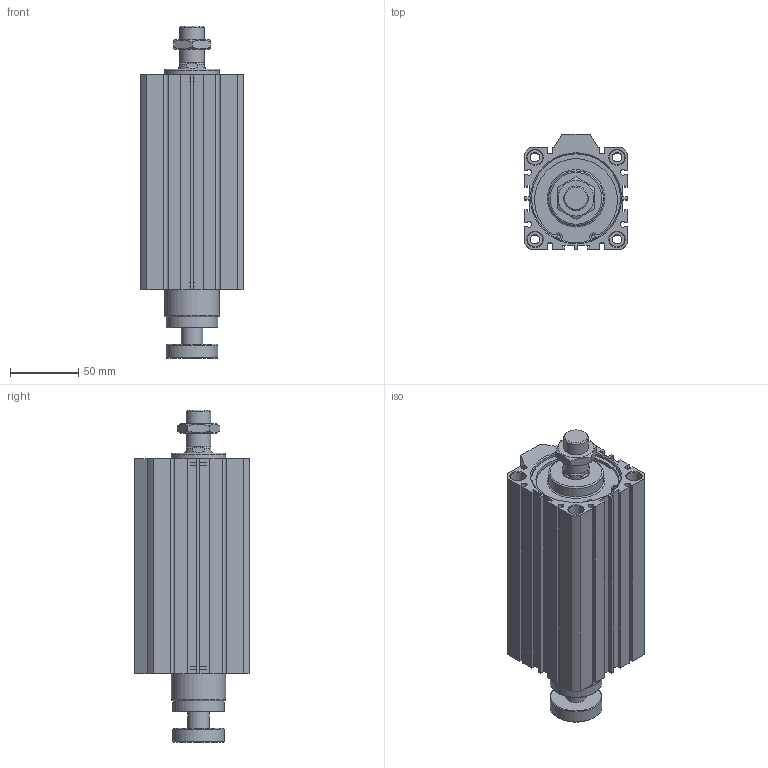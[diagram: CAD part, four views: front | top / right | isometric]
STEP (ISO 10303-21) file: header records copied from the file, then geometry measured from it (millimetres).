
FILE_DESCRIPTION((''),'2;1');
FILE_NAME('I:\3D電子目錄\氣缸\JDAR\JDAR-B\JDAR63-B\JDAR63x125-B.stp','2007-05-05T09:12:39',('662F206'),(''),'Autodesk Inventor 11','Autodesk Inventor 11','');
FILE_SCHEMA(('AUTOMOTIVE_DESIGN { 1 0 10303 214 1 1 1 1 }'));
Length unit declared in the file: millimetre
Products named in the file (3): JDAR63x125-B; JDAR63-B; R 形環 65
Assembly tree (3 placements, depth 2):
  JDAR63x125-B
    JDAR63-B
    R 形環 65  x2
Bounding box: 75 x 84.5 x 242.8 mm (x, y, z)
Volume: 887494.5 mm3; surface area: 114271.7 mm2
Topology: 3 solids, 3 shells, 201 faces, 487 edges, 317 vertices
Faces by surface type: plane 117, cylinder 56, cone 24, bspline 2, torus 2
Full cylindrical faces by diameter (mm): 2.7 x4, 3 x2, 6.8 x4, 11 x8, 16 x1, 18 x2, 20 x1, 38 x2, 40 x2, 65 x4, 68 x2
Entity records: 5539 total; most frequent: CARTESIAN_POINT 1181, DIRECTION 894, ORIENTED_EDGE 794, EDGE_CURVE 397, AXIS2_PLACEMENT_3D 324, VERTEX_POINT 291, EDGE_LOOP 280, VECTOR 246
